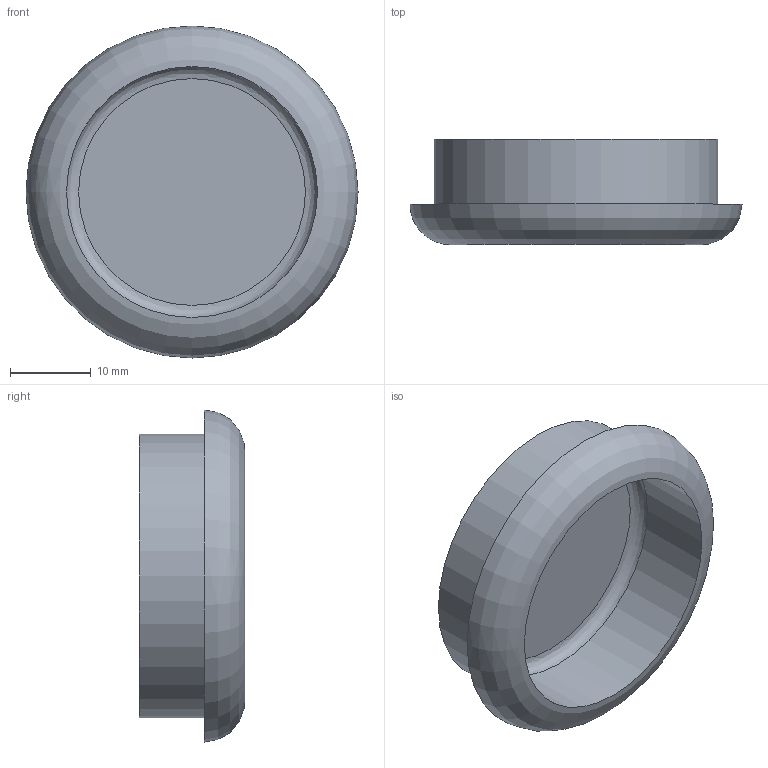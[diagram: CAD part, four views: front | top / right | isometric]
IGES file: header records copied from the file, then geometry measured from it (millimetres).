
Start section: Data from Parasolid IGES Translator 15.0.47, Copyright(c) 2006 Siemens P LM Software. All Rights Reserved.
Global section: file name: 9070556.igs; native system:  By UGS Corp.; preprocessor: XPlus GENERIC/IGES 3.0; author: Noname; organization: Noname; date: 20140122.141522; units: millimetre
Bounding box: 41 x 13 x 41 mm (x, y, z)
Surface area: 4884.2 mm2 (no closed solid volume)
Topology: 0 solids, 0 shells, 7 faces, 20 edges, 13 vertices
Faces by surface type: revolution 4, extrusion 3
